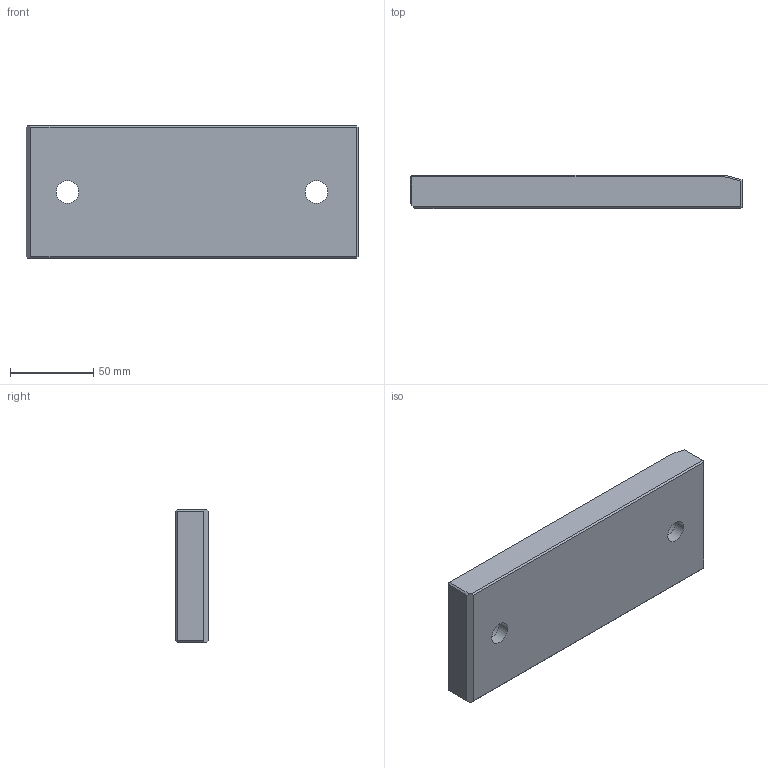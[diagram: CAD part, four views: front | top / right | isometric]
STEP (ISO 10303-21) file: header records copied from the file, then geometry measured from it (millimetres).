
FILE_DESCRIPTION(/* description */ ('Impex Ready, www.impex-ready.pl'),/* implementation_level */ '2;1');
FILE_NAME(/* name */ 'C:\Users\VIKKY\Nextcloud\SM\projekt 10 - części na stronę internetową\Pliki_3D_new\320 Płytki PG12\320 PG12_STEP\PG12.080200.ipt.step',/* time_stamp */ '2021-12-17T18:23:32+01:00',/* author */ ('SM'),/* organization */ (''),/* preprocessor_version */ 'ST-DEVELOPER v18.1',/* originating_system */ 'Autodesk Inventor 2021',/* authorisation */ '');
FILE_SCHEMA (('AUTOMOTIVE_DESIGN { 1 0 10303 214 3 1 1 }'));
Length unit declared in the file: millimetre
Products named in the file (1): PG12.080200
Bounding box: 200 x 20 x 80 mm (x, y, z)
Volume: 307820.6 mm3; surface area: 43817 mm2
Topology: 1 solids, 1 shells, 35 faces, 75 edges, 44 vertices
Faces by surface type: plane 26, cylinder 5, cone 4
Full cylindrical faces by diameter (mm): 13.5 x2, 20 x2
Entity records: 1023 total; most frequent: DIRECTION 163, CARTESIAN_POINT 155, ORIENTED_EDGE 150, EDGE_CURVE 75, LINE 59, VECTOR 59, AXIS2_PLACEMENT_3D 52, VERTEX_POINT 44
